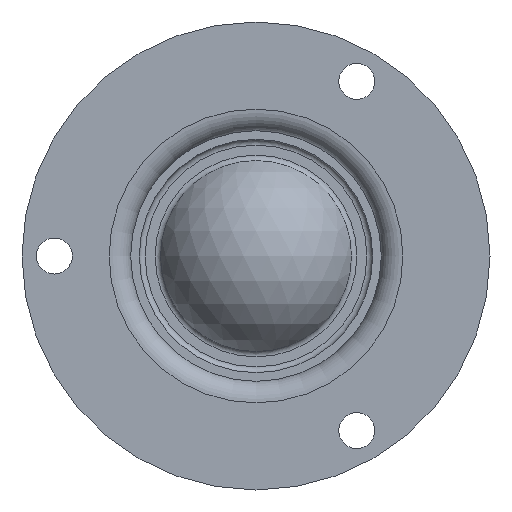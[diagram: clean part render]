
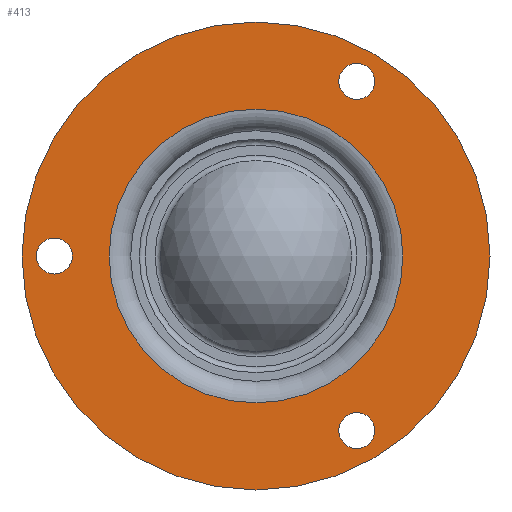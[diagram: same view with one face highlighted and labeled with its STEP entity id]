
A CAD part, front view. The second image highlights one B-rep face of the part: STEP entity #413.
In plain terms, the highlighted planar face has unit normal (0, -1, 0).
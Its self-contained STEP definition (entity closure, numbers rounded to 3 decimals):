
#46=PLANE('',#476);
#84=FACE_BOUND('',#177,.T.);
#85=FACE_BOUND('',#178,.T.);
#86=FACE_BOUND('',#179,.T.);
#87=FACE_BOUND('',#180,.T.);
#118=FACE_OUTER_BOUND('',#176,.T.);
#176=EDGE_LOOP('',(#356));
#177=EDGE_LOOP('',(#357));
#178=EDGE_LOOP('',(#358));
#179=EDGE_LOOP('',(#359));
#180=EDGE_LOOP('',(#360));
#202=CIRCLE('',#431,2.5);
#204=CIRCLE('',#434,2.5);
#206=CIRCLE('',#437,2.5);
#209=CIRCLE('',#441,20.4);
#226=CIRCLE('',#475,32.5);
#238=VERTEX_POINT('',#662);
#240=VERTEX_POINT('',#667);
#242=VERTEX_POINT('',#672);
#245=VERTEX_POINT('',#679);
#262=VERTEX_POINT('',#730);
#275=EDGE_CURVE('',#238,#238,#202,.T.);
#277=EDGE_CURVE('',#240,#240,#204,.T.);
#279=EDGE_CURVE('',#242,#242,#206,.T.);
#282=EDGE_CURVE('',#245,#245,#209,.T.);
#299=EDGE_CURVE('',#262,#262,#226,.T.);
#356=ORIENTED_EDGE('',*,*,#299,.T.);
#357=ORIENTED_EDGE('',*,*,#275,.T.);
#358=ORIENTED_EDGE('',*,*,#277,.T.);
#359=ORIENTED_EDGE('',*,*,#279,.T.);
#360=ORIENTED_EDGE('',*,*,#282,.F.);
#413=ADVANCED_FACE('',(#118,#84,#85,#86,#87),#46,.T.);
#431=AXIS2_PLACEMENT_3D('',#663,#510,#511);
#434=AXIS2_PLACEMENT_3D('',#668,#516,#517);
#437=AXIS2_PLACEMENT_3D('',#673,#522,#523);
#441=AXIS2_PLACEMENT_3D('',#680,#530,#531);
#475=AXIS2_PLACEMENT_3D('',#731,#598,#599);
#476=AXIS2_PLACEMENT_3D('',#732,#600,#601);
#510=DIRECTION('center_axis',(0.,1.,0.));
#511=DIRECTION('ref_axis',(-0.5,0.,-0.866));
#516=DIRECTION('center_axis',(0.,1.,0.));
#517=DIRECTION('ref_axis',(-0.5,0.,0.866));
#522=DIRECTION('center_axis',(0.,1.,0.));
#523=DIRECTION('ref_axis',(1.,0.,0.));
#530=DIRECTION('center_axis',(0.,-1.,0.));
#531=DIRECTION('ref_axis',(1.,0.,0.));
#598=DIRECTION('center_axis',(0.,-1.,0.));
#599=DIRECTION('ref_axis',(1.,0.,0.));
#600=DIRECTION('center_axis',(0.,-1.,0.));
#601=DIRECTION('ref_axis',(0.,0.,-1.));
#662=CARTESIAN_POINT('',(15.25,0.,26.414));
#663=CARTESIAN_POINT('Origin',(14.,0.,24.249));
#667=CARTESIAN_POINT('',(15.25,0.,-26.414));
#668=CARTESIAN_POINT('Origin',(14.,0.,-24.249));
#672=CARTESIAN_POINT('',(-30.5,0.,0.));
#673=CARTESIAN_POINT('Origin',(-28.,0.,0.));
#679=CARTESIAN_POINT('',(20.4,0.,0.));
#680=CARTESIAN_POINT('Origin',(0.,0.,0.));
#730=CARTESIAN_POINT('',(32.5,0.,0.));
#731=CARTESIAN_POINT('Origin',(0.,0.,0.));
#732=CARTESIAN_POINT('Origin',(20.4,0.,0.));
